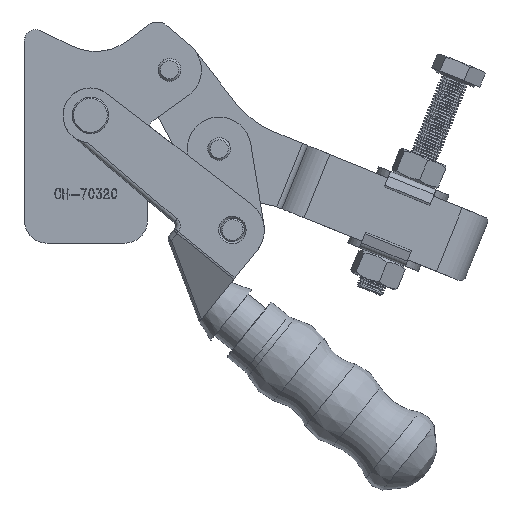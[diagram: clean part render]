
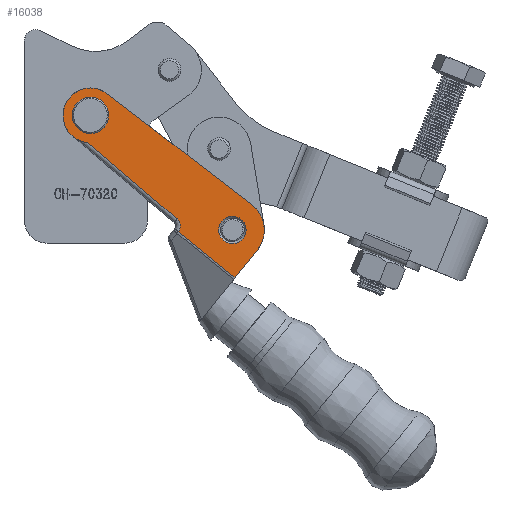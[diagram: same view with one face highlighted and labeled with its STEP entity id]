
A CAD part, top view. The second image highlights one B-rep face of the part: STEP entity #16038.
In plain terms, the highlighted planar face has unit normal (0, 0, 1).
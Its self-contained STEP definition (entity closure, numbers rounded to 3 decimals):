
#615=FACE_BOUND('',#2632,.T.);
#616=FACE_BOUND('',#2633,.T.);
#1215=PLANE('',#17118);
#1728=FACE_OUTER_BOUND('',#2631,.T.);
#2631=EDGE_LOOP('',(#13005,#13006,#13007,#13008,#13009,#13010,#13011,#13012));
#2632=EDGE_LOOP('',(#13013,#13014));
#2633=EDGE_LOOP('',(#13015,#13016));
#3912=LINE('',#34598,#5158);
#3919=LINE('',#34620,#5165);
#3934=LINE('',#34665,#5180);
#3935=LINE('',#34669,#5181);
#3936=LINE('',#34670,#5182);
#5158=VECTOR('',#19848,1000.);
#5165=VECTOR('',#19869,1000.);
#5180=VECTOR('',#19918,1000.);
#5181=VECTOR('',#19921,1000.);
#5182=VECTOR('',#19922,1000.);
#5651=CIRCLE('',#17047,3.);
#5652=CIRCLE('',#17048,3.);
#5655=CIRCLE('',#17052,3.);
#5656=CIRCLE('',#17053,3.);
#5681=CIRCLE('',#17089,6.);
#5684=CIRCLE('',#17099,7.);
#5693=CIRCLE('',#17119,2.);
#7204=VERTEX_POINT('',#34431);
#7205=VERTEX_POINT('',#34433);
#7208=VERTEX_POINT('',#34441);
#7209=VERTEX_POINT('',#34443);
#7250=VERTEX_POINT('',#34544);
#7251=VERTEX_POINT('',#34563);
#7262=VERTEX_POINT('',#34595);
#7263=VERTEX_POINT('',#34597);
#7268=VERTEX_POINT('',#34610);
#7284=VERTEX_POINT('',#34664);
#7285=VERTEX_POINT('',#34666);
#7286=VERTEX_POINT('',#34668);
#9237=EDGE_CURVE('',#7205,#7204,#5651,.T.);
#9238=EDGE_CURVE('',#7204,#7205,#5652,.T.);
#9242=EDGE_CURVE('',#7209,#7208,#5655,.T.);
#9243=EDGE_CURVE('',#7208,#7209,#5656,.T.);
#9292=EDGE_CURVE('',#7251,#7250,#5681,.T.);
#9307=EDGE_CURVE('',#7263,#7262,#3912,.T.);
#9315=EDGE_CURVE('',#7262,#7268,#5684,.T.);
#9319=EDGE_CURVE('',#7251,#7268,#3919,.T.);
#9343=EDGE_CURVE('',#7250,#7284,#3934,.T.);
#9344=EDGE_CURVE('',#7284,#7285,#5693,.T.);
#9345=EDGE_CURVE('',#7285,#7286,#3935,.T.);
#9346=EDGE_CURVE('',#7286,#7263,#3936,.T.);
#13005=ORIENTED_EDGE('',*,*,#9292,.T.);
#13006=ORIENTED_EDGE('',*,*,#9343,.T.);
#13007=ORIENTED_EDGE('',*,*,#9344,.T.);
#13008=ORIENTED_EDGE('',*,*,#9345,.T.);
#13009=ORIENTED_EDGE('',*,*,#9346,.T.);
#13010=ORIENTED_EDGE('',*,*,#9307,.T.);
#13011=ORIENTED_EDGE('',*,*,#9315,.T.);
#13012=ORIENTED_EDGE('',*,*,#9319,.F.);
#13013=ORIENTED_EDGE('',*,*,#9242,.T.);
#13014=ORIENTED_EDGE('',*,*,#9243,.T.);
#13015=ORIENTED_EDGE('',*,*,#9237,.T.);
#13016=ORIENTED_EDGE('',*,*,#9238,.T.);
#16038=ADVANCED_FACE('',(#1728,#615,#616),#1215,.T.);
#17047=AXIS2_PLACEMENT_3D('',#34434,#19718,#19719);
#17048=AXIS2_PLACEMENT_3D('',#34435,#19720,#19721);
#17052=AXIS2_PLACEMENT_3D('',#34444,#19729,#19730);
#17053=AXIS2_PLACEMENT_3D('',#34445,#19731,#19732);
#17089=AXIS2_PLACEMENT_3D('',#34564,#19826,#19827);
#17099=AXIS2_PLACEMENT_3D('',#34612,#19861,#19862);
#17118=AXIS2_PLACEMENT_3D('',#34663,#19916,#19917);
#17119=AXIS2_PLACEMENT_3D('',#34667,#19919,#19920);
#19718=DIRECTION('center_axis',(0.,0.,-1.));
#19719=DIRECTION('ref_axis',(1.,0.,0.));
#19720=DIRECTION('center_axis',(0.,0.,-1.));
#19721=DIRECTION('ref_axis',(1.,0.,0.));
#19729=DIRECTION('center_axis',(0.,0.,-1.));
#19730=DIRECTION('ref_axis',(1.,0.,0.));
#19731=DIRECTION('center_axis',(0.,0.,-1.));
#19732=DIRECTION('ref_axis',(1.,0.,0.));
#19826=DIRECTION('center_axis',(0.,0.,1.));
#19827=DIRECTION('ref_axis',(1.,0.,0.));
#19848=DIRECTION('',(-1.,0.,0.));
#19861=DIRECTION('center_axis',(0.,0.,1.));
#19862=DIRECTION('ref_axis',(1.,0.,0.));
#19869=DIRECTION('',(-0.025,1.,0.));
#19916=DIRECTION('center_axis',(0.,0.,1.));
#19917=DIRECTION('ref_axis',(1.,0.,0.));
#19918=DIRECTION('',(0.025,1.,0.));
#19919=DIRECTION('center_axis',(0.,0.,-1.));
#19920=DIRECTION('ref_axis',(1.,0.,0.));
#19921=DIRECTION('',(1.,0.,0.));
#19922=DIRECTION('',(0.,1.,0.));
#34431=CARTESIAN_POINT('',(1262.319,62.312,20.));
#34433=CARTESIAN_POINT('',(1268.319,62.312,20.));
#34434=CARTESIAN_POINT('Origin',(1265.319,62.312,20.));
#34435=CARTESIAN_POINT('Origin',(1265.319,62.312,20.));
#34441=CARTESIAN_POINT('',(1262.319,22.312,20.));
#34443=CARTESIAN_POINT('',(1268.319,22.312,20.));
#34444=CARTESIAN_POINT('Origin',(1265.319,22.312,20.));
#34445=CARTESIAN_POINT('Origin',(1265.319,22.312,20.));
#34544=CARTESIAN_POINT('',(1270.398,25.506,20.));
#34563=CARTESIAN_POINT('',(1259.319,22.312,20.));
#34564=CARTESIAN_POINT('Origin',(1265.319,22.312,20.));
#34595=CARTESIAN_POINT('',(1265.319,69.312,20.));
#34597=CARTESIAN_POINT('',(1273.08,69.312,20.));
#34598=CARTESIAN_POINT('',(0.,69.312,20.));
#34610=CARTESIAN_POINT('',(1258.319,62.312,20.));
#34612=CARTESIAN_POINT('Origin',(1265.319,62.312,20.));
#34620=CARTESIAN_POINT('',(1259.089,31.477,20.));
#34663=CARTESIAN_POINT('Origin',(0.,0.,20.));
#34664=CARTESIAN_POINT('',(1271.045,51.362,20.));
#34665=CARTESIAN_POINT('',(1271.045,51.362,20.));
#34666=CARTESIAN_POINT('',(1273.044,53.312,20.));
#34667=CARTESIAN_POINT('Origin',(1273.044,51.312,20.));
#34668=CARTESIAN_POINT('',(1273.08,53.312,20.));
#34669=CARTESIAN_POINT('',(0.,53.312,20.));
#34670=CARTESIAN_POINT('',(1273.08,69.312,20.));
